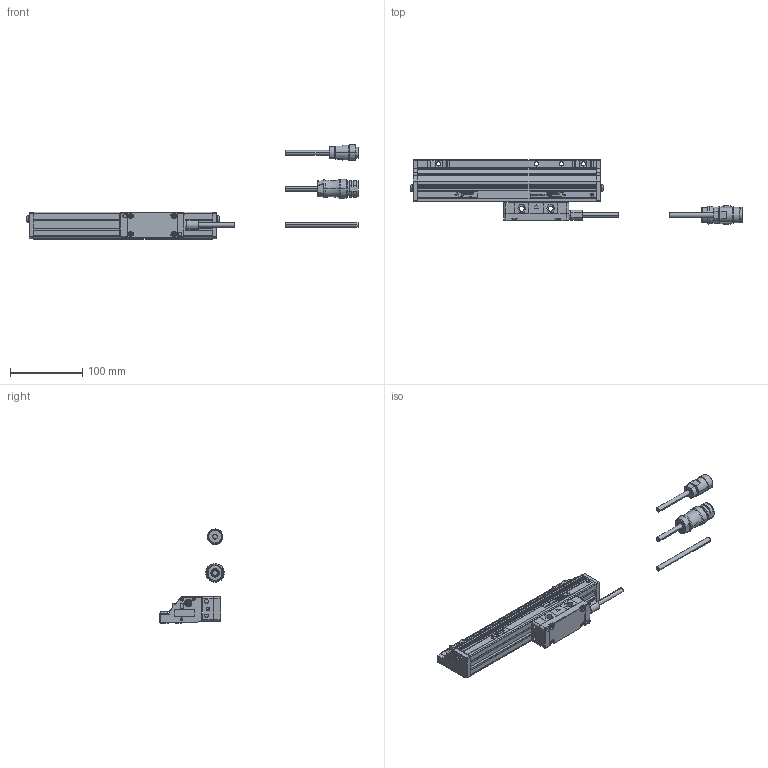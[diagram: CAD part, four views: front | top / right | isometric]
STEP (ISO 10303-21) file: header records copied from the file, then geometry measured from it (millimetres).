
FILE_DESCRIPTION(('Creo Elements/Direct Modeling STEP Export'),'2;1');
FILE_NAME('AT402E-140.stp','2018-02-21T11:19:54',(''),(''),'Creo Elements/Direct Modeling STEP processor for AP214 (Solid Model)','Creo Elements/Direct Modeling 18.1B 29-Sep-2012 (C) Parametric Technology GmbH','');
FILE_SCHEMA(('AUTOMOTIVE_DESIGN { 1 0 10303 214 1 1 1 1 }'));
Length unit declared in the file: millimetre
Products named in the file (6): Detector_Head; Scale_140; Connector_typeC; Connector_typeB; Connector_typeA; AT402E-140
Assembly tree (5 placements, depth 2):
  AT402E-140
    Connector_typeA
    Connector_typeB
    Connector_typeC
    Scale_140
    Detector_Head
Bounding box: 459.63 x 90 x 130.25 mm (x, y, z)
Volume: 532762.9 mm3; surface area: 86323.2 mm2
Topology: 5 solids, 5 shells, 971 faces, 2689 edges, 1832 vertices
Faces by surface type: plane 542, cylinder 295, torus 50, bspline 46, cone 26, sphere 12
Entity records: 35919 total; most frequent: CARTESIAN_POINT 11785, ORIENTED_EDGE 5378, DIRECTION 4548, EDGE_CURVE 2689, VERTEX_POINT 1832, VECTOR 1594, LINE 1594, AXIS2_PLACEMENT_3D 1477
